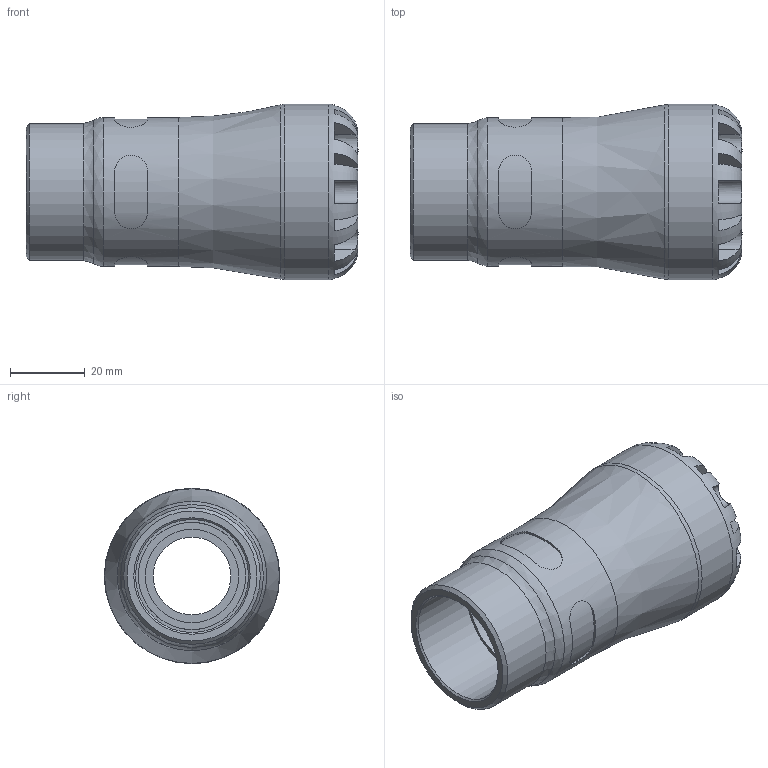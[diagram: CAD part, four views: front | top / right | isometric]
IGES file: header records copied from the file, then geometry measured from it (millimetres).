
Global section: file name: 107300025010_197300025010.ipt; native system: Autodesk Inventor 2015; preprocessor: unknown; author: KIM; date: 20170122.113602; units: millimetre
Bounding box: 89 x 47 x 47 mm (x, y, z)
Volume: 69701 mm3; surface area: 22044.9 mm2
Topology: 1 solids, 1 shells, 108 faces, 278 edges, 180 vertices
Faces by surface type: plane 63, revolution 29, cylinder 15, cone 1
Full cylindrical faces by diameter (mm): 36.66 x1, 39.95 x1, 47 x1
